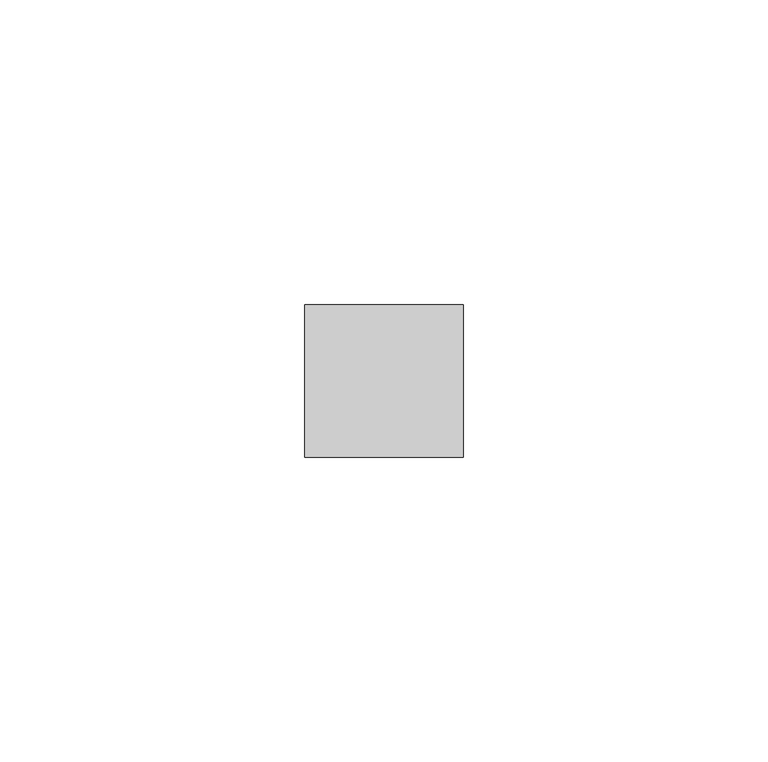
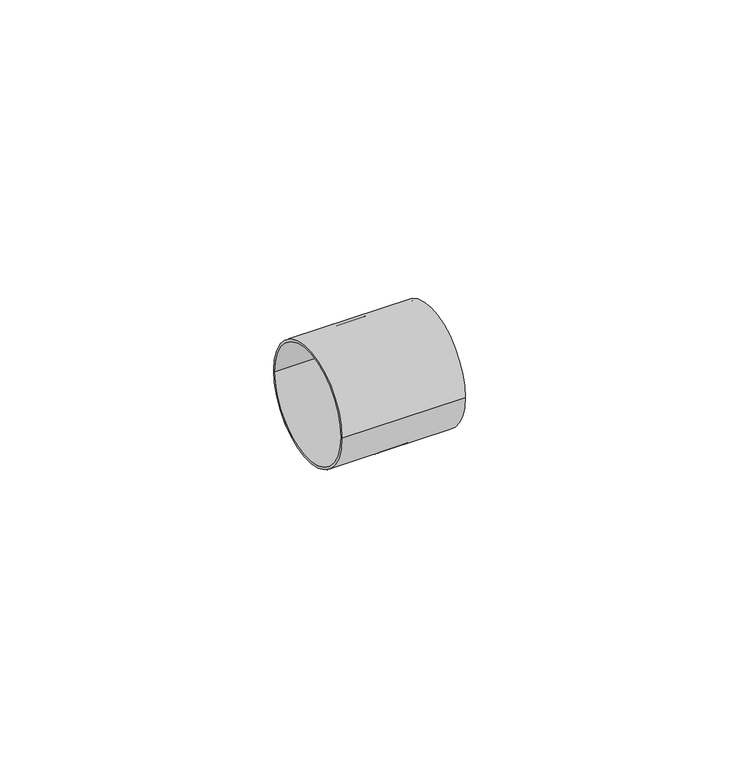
"""IFC4 building model written with IfcOpenShell, lengths in millimetres: pipe fitting geometry, БИР ПЕКС_НПР_Гильза : Гильза для труб ПЕКС."""

from ifc_helpers import new_model, si_unit, point, frame, origin, origin_2d, place, context, project, spatial, circle_curve, trimmed, segment, composite_curve, outline, extrude, source, transform, mapped, element, save


def pipe_fitting_cadf8a1e(model_context):
    return source(origin(), model_context, "Body", "SweptSolid", [
        extrude(outline(composite_curve([segment(trimmed(circle_curve(origin_2d(), 12.5), [point((-12.5, 0.0))], [point((12.5, 0.0))], False, "CARTESIAN"), True, "CONTINUOUS"), segment(trimmed(circle_curve(origin_2d(), 12.5), [point((12.5, 0.0))], [point((-12.5, 0.0))], False, "CARTESIAN"), True, "CONTINUOUS")], self_intersect=False), holes=[composite_curve([segment(trimmed(circle_curve(origin_2d(), 12.0), [point((-12.0, 0.0))], [point((12.0, 0.0))], True, "CARTESIAN"), True, "CONTINUOUS"), segment(trimmed(circle_curve(origin_2d(), 12.0), [point((12.0, 0.0))], [point((-12.0, 0.0))], True, "CARTESIAN"), True, "CONTINUOUS")], self_intersect=False)]), frame((-13.0, 0.0, 0.0), z_axis=(1.0, 0.0, 0.0), x_axis=(0.0, 1.0, 0.0)), (0.0, 0.0, 1.0), 26.0),
        extrude(outline(composite_curve([segment(trimmed(circle_curve(origin_2d(), 12.5), [point((-12.5, 0.0))], [point((12.5, 0.0))], False, "CARTESIAN"), True, "CONTINUOUS"), segment(trimmed(circle_curve(origin_2d(), 12.5), [point((12.5, 0.0))], [point((-12.5, 0.0))], False, "CARTESIAN"), True, "CONTINUOUS")], self_intersect=False), holes=[composite_curve([segment(trimmed(circle_curve(origin_2d(), 12.0), [point((-12.0, 0.0))], [point((12.0, 0.0))], True, "CARTESIAN"), True, "CONTINUOUS"), segment(trimmed(circle_curve(origin_2d(), 12.0), [point((12.0, 0.0))], [point((-12.0, 0.0))], True, "CARTESIAN"), True, "CONTINUOUS")], self_intersect=False)]), frame((-3.0, 0.0, 0.0), z_axis=(1.0, 0.0, 0.0), x_axis=(0.0, 1.0, 0.0)), (0.0, 0.0, 1.0), 6.0),
    ])


if __name__ == "__main__":
    model = new_model("IFC4")
    model_context = context("Model", 3, world=origin())
    ifc_project = project(units=[si_unit("LENGTHUNIT", "METRE", prefix="MILLI")], contexts=[model_context])
    site = spatial("IfcSite", under=ifc_project)
    building = spatial("IfcBuilding", under=site)
    placement = place(None, origin())
    pipe_fitting_shape = pipe_fitting_cadf8a1e(model_context)
    element("IfcPipeFitting", 1, ObjectType="БИР ПЕКС_НПР_Гильза : Гильза для труб ПЕКС", at=placement, inside=building, context=model_context, shape_type="MappedRepresentation", body=[
        mapped(pipe_fitting_shape, transform((0.0, 0.0, 0.0), x_axis=(1.0, 0.0, 0.0), y_axis=(0.0, 1.0, 0.0), z_axis=(0.0, 0.0, 1.0))),
    ])
    save(model, "model.ifc")
